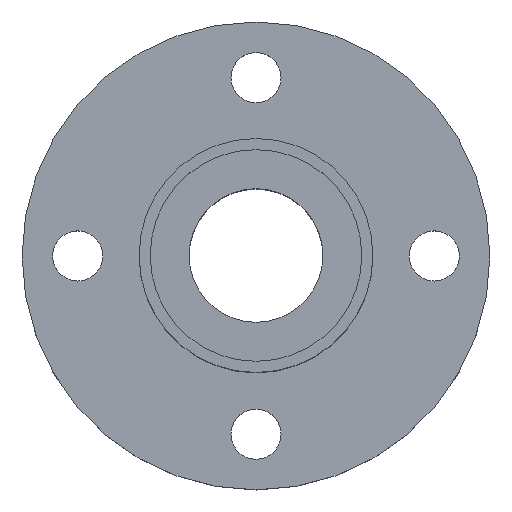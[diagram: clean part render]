
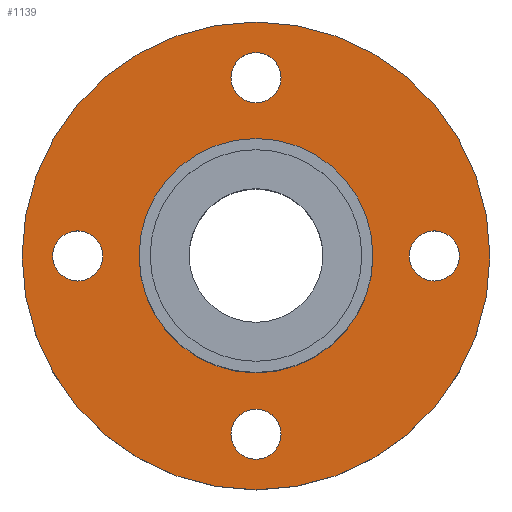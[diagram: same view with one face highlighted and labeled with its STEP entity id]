
A CAD part, top view. The second image highlights one B-rep face of the part: STEP entity #1139.
In plain terms, the highlighted planar face has unit normal (0, 0, 1).
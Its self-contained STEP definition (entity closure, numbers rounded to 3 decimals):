
#51=CARTESIAN_POINT('',(-21.0,-0.1,6.));
#52=VERTEX_POINT('',#51);
#68=CARTESIAN_POINT('',(21.0,-0.1,6.));
#69=VERTEX_POINT('',#68);
#76=CARTESIAN_POINT('',(0.0,-0.1,6.));
#77=DIRECTION('',(0.0,0.0,-1.0));
#78=DIRECTION('',(-1.0,0.0,0.0));
#79=AXIS2_PLACEMENT_3D('',#76,#77,#78);
#80=CIRCLE('',#79,21.0);
#81=EDGE_CURVE('',#69,#52,#80,.T.);
#133=CARTESIAN_POINT('',(-10.5,-0.1,6.0));
#134=VERTEX_POINT('',#133);
#143=CARTESIAN_POINT('',(10.5,-0.1,6.));
#144=VERTEX_POINT('',#143);
#145=CARTESIAN_POINT('',(0.0,-0.1,6.));
#146=DIRECTION('',(0.0,0.0,-1.0));
#147=DIRECTION('',(-1.0,0.0,0.0));
#148=AXIS2_PLACEMENT_3D('',#145,#146,#147);
#149=CIRCLE('',#148,10.5);
#150=EDGE_CURVE('',#144,#134,#149,.T.);
#345=CARTESIAN_POINT('',(0.0,13.65,6.));
#346=VERTEX_POINT('',#345);
#362=CARTESIAN_POINT('',(0.,18.15,6.));
#363=VERTEX_POINT('',#362);
#370=CARTESIAN_POINT('',(0.0,15.9,6.));
#371=DIRECTION('',(0.0,0.0,-1.0));
#372=DIRECTION('',(0.0,-1.0,0.0));
#373=AXIS2_PLACEMENT_3D('',#370,#371,#372);
#374=CIRCLE('',#373,2.25);
#375=EDGE_CURVE('',#346,#363,#374,.T.);
#429=CARTESIAN_POINT('',(-13.75,-0.1,6.));
#430=VERTEX_POINT('',#429);
#446=CARTESIAN_POINT('',(-18.25,-0.1,6.));
#447=VERTEX_POINT('',#446);
#454=CARTESIAN_POINT('',(-16.0,-0.1,6.));
#455=DIRECTION('',(0.0,0.0,-1.0));
#456=DIRECTION('',(1.0,0.0,0.0));
#457=AXIS2_PLACEMENT_3D('',#454,#455,#456);
#458=CIRCLE('',#457,2.25);
#459=EDGE_CURVE('',#430,#447,#458,.T.);
#513=CARTESIAN_POINT('',(0.,-13.85,6.));
#514=VERTEX_POINT('',#513);
#530=CARTESIAN_POINT('',(0.,-18.35,6.));
#531=VERTEX_POINT('',#530);
#538=CARTESIAN_POINT('',(0.,-16.1,6.));
#539=DIRECTION('',(0.0,0.0,-1.0));
#540=DIRECTION('',(0.0,1.0,0.0));
#541=AXIS2_PLACEMENT_3D('',#538,#539,#540);
#542=CIRCLE('',#541,2.25);
#543=EDGE_CURVE('',#514,#531,#542,.T.);
#597=CARTESIAN_POINT('',(13.75,-0.1,6.));
#598=VERTEX_POINT('',#597);
#614=CARTESIAN_POINT('',(18.25,-0.1,6.));
#615=VERTEX_POINT('',#614);
#622=CARTESIAN_POINT('',(16.0,-0.1,6.));
#623=DIRECTION('',(0.0,0.0,-1.0));
#624=DIRECTION('',(-1.0,0.0,0.0));
#625=AXIS2_PLACEMENT_3D('',#622,#623,#624);
#626=CIRCLE('',#625,2.25);
#627=EDGE_CURVE('',#598,#615,#626,.T.);
#638=CARTESIAN_POINT('',(16.0,-0.1,6.));
#639=DIRECTION('',(0.0,0.0,-1.0));
#640=DIRECTION('',(-1.0,0.0,0.0));
#641=AXIS2_PLACEMENT_3D('',#638,#639,#640);
#642=CIRCLE('',#641,2.25);
#643=EDGE_CURVE('',#615,#598,#642,.T.);
#700=CARTESIAN_POINT('',(0.,-16.1,6.));
#701=DIRECTION('',(0.0,0.0,-1.0));
#702=DIRECTION('',(0.0,1.0,0.0));
#703=AXIS2_PLACEMENT_3D('',#700,#701,#702);
#704=CIRCLE('',#703,2.25);
#705=EDGE_CURVE('',#531,#514,#704,.T.);
#762=CARTESIAN_POINT('',(-16.0,-0.1,6.));
#763=DIRECTION('',(0.0,0.0,-1.0));
#764=DIRECTION('',(1.0,0.0,0.0));
#765=AXIS2_PLACEMENT_3D('',#762,#763,#764);
#766=CIRCLE('',#765,2.25);
#767=EDGE_CURVE('',#447,#430,#766,.T.);
#824=CARTESIAN_POINT('',(0.0,15.9,6.));
#825=DIRECTION('',(0.0,0.0,-1.0));
#826=DIRECTION('',(0.0,-1.0,0.0));
#827=AXIS2_PLACEMENT_3D('',#824,#825,#826);
#828=CIRCLE('',#827,2.25);
#829=EDGE_CURVE('',#363,#346,#828,.T.);
#1056=CARTESIAN_POINT('',(0.0,-0.1,6.));
#1057=DIRECTION('',(0.0,0.0,-1.0));
#1058=DIRECTION('',(-1.0,0.0,0.0));
#1059=AXIS2_PLACEMENT_3D('',#1056,#1057,#1058);
#1060=CIRCLE('',#1059,10.5);
#1061=EDGE_CURVE('',#134,#144,#1060,.T.);
#1098=CARTESIAN_POINT('',(0.0,-0.1,6.));
#1099=DIRECTION('',(0.0,0.0,-1.0));
#1100=DIRECTION('',(-1.0,0.0,0.0));
#1101=AXIS2_PLACEMENT_3D('',#1098,#1099,#1100);
#1102=CIRCLE('',#1101,21.0);
#1103=EDGE_CURVE('',#52,#69,#1102,.T.);
#1110=CARTESIAN_POINT('',(0.0,-0.1,6.));
#1111=DIRECTION('',(0.0,0.0,-1.0));
#1112=DIRECTION('',(-1.0,0.0,0.0));
#1113=AXIS2_PLACEMENT_3D('',#1110,#1111,#1112);
#1114=PLANE('',#1113);
#1115=ORIENTED_EDGE('',*,*,#81,.F.);
#1116=ORIENTED_EDGE('',*,*,#1103,.F.);
#1117=EDGE_LOOP('',(#1115,#1116));
#1118=FACE_OUTER_BOUND('',#1117,.T.);
#1119=ORIENTED_EDGE('',*,*,#627,.T.);
#1120=ORIENTED_EDGE('',*,*,#643,.T.);
#1121=EDGE_LOOP('',(#1119,#1120));
#1122=FACE_BOUND('',#1121,.T.);
#1123=ORIENTED_EDGE('',*,*,#543,.T.);
#1124=ORIENTED_EDGE('',*,*,#705,.T.);
#1125=EDGE_LOOP('',(#1123,#1124));
#1126=FACE_BOUND('',#1125,.T.);
#1127=ORIENTED_EDGE('',*,*,#459,.T.);
#1128=ORIENTED_EDGE('',*,*,#767,.T.);
#1129=EDGE_LOOP('',(#1127,#1128));
#1130=FACE_BOUND('',#1129,.T.);
#1131=ORIENTED_EDGE('',*,*,#375,.T.);
#1132=ORIENTED_EDGE('',*,*,#829,.T.);
#1133=EDGE_LOOP('',(#1131,#1132));
#1134=FACE_BOUND('',#1133,.T.);
#1135=ORIENTED_EDGE('',*,*,#150,.T.);
#1136=ORIENTED_EDGE('',*,*,#1061,.T.);
#1137=EDGE_LOOP('',(#1135,#1136));
#1138=FACE_BOUND('',#1137,.T.);
#1139=ADVANCED_FACE('',(#1118,#1122,#1126,#1130,#1134,#1138),#1114,.F.);
